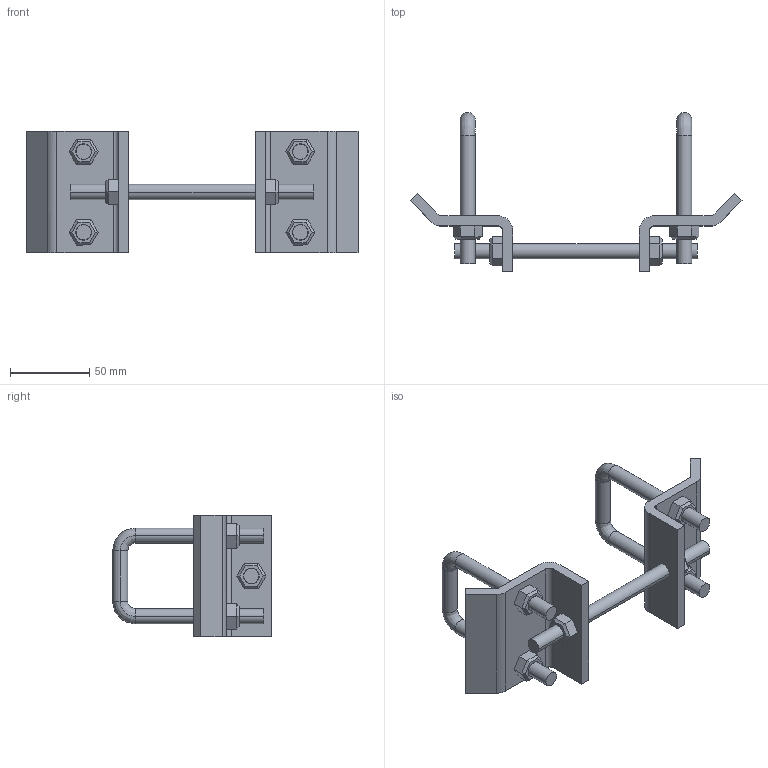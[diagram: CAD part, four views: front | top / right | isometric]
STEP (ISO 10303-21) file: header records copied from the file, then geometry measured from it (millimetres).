
FILE_DESCRIPTION(('TurboCAD Mac Pro'),'Build 980');
FILE_NAME('P2868.stp',' ',(''),(''),'ACIS Interop','IMSI','TurboCAD Mac Pro BY IMSI, INCORPORATED');
FILE_SCHEMA(('automotive_design'));
Length unit declared in the file: inch
Products named in the file (11): 1; 2; 3; 4; 5; 6; 7; 8; 9; 10; 11
Bounding box: 209 x 100.03 x 76.2 mm (x, y, z)
Volume: 140839.3 mm3; surface area: 57163.3 mm2
Topology: 11 solids, 11 shells, 164 faces, 374 edges, 232 vertices
Faces by surface type: plane 110, bspline 40, cylinder 14
Entity records: 8570 total; most frequent: CARTESIAN_POINT 1765, ORIENTED_EDGE 748, DIRECTION 608, STYLED_ITEM 531, PRESENTATION_STYLE_ASSIGNMENT 531, COLOUR_RGB 531, EDGE_CURVE 374, CURVE_STYLE 356
